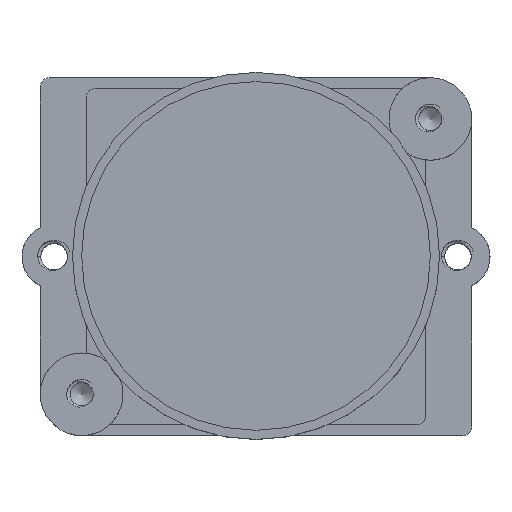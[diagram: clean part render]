
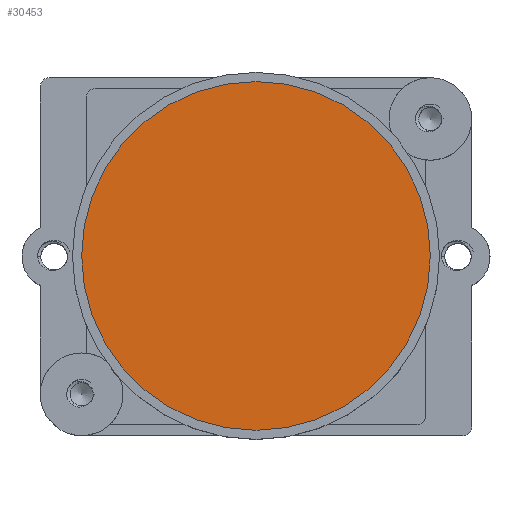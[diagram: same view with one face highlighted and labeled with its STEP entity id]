
A CAD part, top view. The second image highlights one B-rep face of the part: STEP entity #30453.
In plain terms, the highlighted planar face has unit normal (0, 0, 1).
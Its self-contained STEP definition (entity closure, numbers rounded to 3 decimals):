
#30418 = VERTEX_POINT('',#30419);
#30419 = CARTESIAN_POINT('',(9.5,0.,0.2));
#30425 = EDGE_CURVE('',#30418,#30418,#30426,.T.);
#30426 = CIRCLE('',#30427,9.5);
#30427 = AXIS2_PLACEMENT_3D('',#30428,#30429,#30430);
#30428 = CARTESIAN_POINT('',(0.,0.,0.2));
#30429 = DIRECTION('',(0.,0.,1.));
#30430 = DIRECTION('',(1.,0.,0.));
#30453 = ADVANCED_FACE('',(#30454),#30457,.T.);
#30454 = FACE_BOUND('',#30455,.T.);
#30455 = EDGE_LOOP('',(#30456));
#30456 = ORIENTED_EDGE('',*,*,#30425,.T.);
#30457 = PLANE('',#30458);
#30458 = AXIS2_PLACEMENT_3D('',#30459,#30460,#30461);
#30459 = CARTESIAN_POINT('',(0.,0.,0.2)
  );
#30460 = DIRECTION('',(0.,0.,1.));
#30461 = DIRECTION('',(1.,0.,0.));
